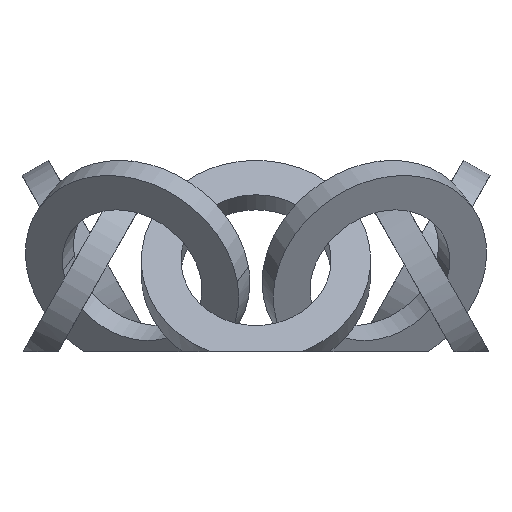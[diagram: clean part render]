
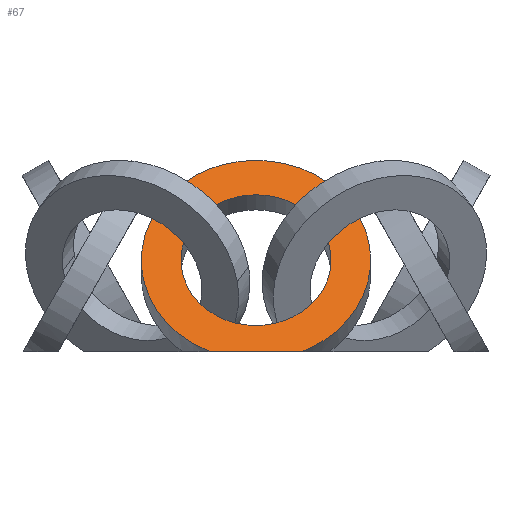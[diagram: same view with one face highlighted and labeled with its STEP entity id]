
A CAD part, left-side view. The second image highlights one B-rep face of the part: STEP entity #67.
In plain terms, the highlighted planar face has unit normal (-0.87, 0, 0.494).
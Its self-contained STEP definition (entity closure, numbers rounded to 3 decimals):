
#67=ADVANCED_FACE($,(#175,#129),#1057,.T.);
#129=FACE_BOUND($,#269,.T.);
#175=FACE_OUTER_BOUND($,#268,.T.);
#268=EDGE_LOOP($,(#469,#470,#471));
#269=EDGE_LOOP($,(#472,#473));
#469=ORIENTED_EDGE($,*,*,#759,.F.);
#470=ORIENTED_EDGE($,*,*,#767,.F.);
#471=ORIENTED_EDGE($,*,*,#765,.F.);
#472=ORIENTED_EDGE($,*,*,#770,.F.);
#473=ORIENTED_EDGE($,*,*,#761,.F.);
#759=EDGE_CURVE($,#918,#922,#1198,.T.);
#761=EDGE_CURVE($,#919,#925,#1199,.T.);
#765=EDGE_CURVE($,#922,#923,#1113,.T.);
#767=EDGE_CURVE($,#923,#918,#1201,.T.);
#770=EDGE_CURVE($,#925,#919,#1203,.T.);
#918=VERTEX_POINT($,#2023);
#919=VERTEX_POINT($,#2024);
#922=VERTEX_POINT($,#2027);
#923=VERTEX_POINT($,#2028);
#925=VERTEX_POINT($,#2030);
#1057=PLANE($,#1361);
#1113=B_SPLINE_CURVE_WITH_KNOTS($,3,(#1956,#1957,#1958,#1959),.UNSPECIFIED.,
.F.,.F.,(4,4),(-21.035,-9.032),.UNSPECIFIED.);
#1198=(
BOUNDED_CURVE()
B_SPLINE_CURVE(2,(#1924,#1925,#1926,#1927,#1928,#1929,#1930),.UNSPECIFIED.,
.F.,.F.)
B_SPLINE_CURVE_WITH_KNOTS((3,2,2,3),(0.,23.614,47.228,
65.429),.UNSPECIFIED.)
CURVE()
GEOMETRIC_REPRESENTATION_ITEM()
RATIONAL_B_SPLINE_CURVE((1.,0.707,1.,0.707,1.,0.818,
1.))
REPRESENTATION_ITEM($)
);
#1199=(
BOUNDED_CURVE()
B_SPLINE_CURVE(2,(#1933,#1934,#1935,#1936,#1937),.UNSPECIFIED.,.F.,.F.)
B_SPLINE_CURVE_WITH_KNOTS((3,2,3),(-61.882,-46.412,-30.941),
.UNSPECIFIED.)
CURVE()
GEOMETRIC_REPRESENTATION_ITEM()
RATIONAL_B_SPLINE_CURVE((1.,0.707,1.,0.707,1.))
REPRESENTATION_ITEM($)
);
#1201=(
BOUNDED_CURVE()
B_SPLINE_CURVE(2,(#1963,#1964,#1965),.UNSPECIFIED.,.F.,.F.)
B_SPLINE_CURVE_WITH_KNOTS((3,3),(78.223,94.457),.UNSPECIFIED.)
CURVE()
GEOMETRIC_REPRESENTATION_ITEM()
RATIONAL_B_SPLINE_CURVE((1.,0.854,1.))
REPRESENTATION_ITEM($)
);
#1203=(
BOUNDED_CURVE()
B_SPLINE_CURVE(2,(#1973,#1974,#1975,#1976,#1977),.UNSPECIFIED.,.F.,.F.)
B_SPLINE_CURVE_WITH_KNOTS((3,2,3),(-30.941,-15.471,0.),
.UNSPECIFIED.)
CURVE()
GEOMETRIC_REPRESENTATION_ITEM()
RATIONAL_B_SPLINE_CURVE((1.,0.707,1.,0.707,1.))
REPRESENTATION_ITEM($)
);
#1361=AXIS2_PLACEMENT_3D($,#1995,#1400,$);
#1400=DIRECTION($,(-0.87,0.,0.494));
#1924=CARTESIAN_POINT($,(-32.233,15.,11.118));
#1925=CARTESIAN_POINT($,(-24.829,16.,24.163));
#1926=CARTESIAN_POINT($,(-24.335,1.,25.032));
#1927=CARTESIAN_POINT($,(-23.842,-14.,25.902));
#1928=CARTESIAN_POINT($,(-31.246,-15.,12.857));
#1929=CARTESIAN_POINT($,(-36.458,-15.704,3.674));
#1930=CARTESIAN_POINT($,(-38.543,-6.002,0.));
#1933=CARTESIAN_POINT($,(-32.063,9.827,11.417));
#1934=CARTESIAN_POINT($,(-36.913,9.172,2.871));
#1935=CARTESIAN_POINT($,(-36.59,-0.655,3.441));
#1936=CARTESIAN_POINT($,(-36.267,-10.482,4.011));
#1937=CARTESIAN_POINT($,(-31.416,-9.827,12.557));
#1956=CARTESIAN_POINT($,(-38.543,-6.002,0.));
#1957=CARTESIAN_POINT($,(-38.543,-2.001,0.));
#1958=CARTESIAN_POINT($,(-38.543,2.001,0.));
#1959=CARTESIAN_POINT($,(-38.543,6.002,0.));
#1963=CARTESIAN_POINT($,(-38.543,6.002,0.));
#1964=CARTESIAN_POINT($,(-36.74,14.391,3.177));
#1965=CARTESIAN_POINT($,(-32.233,15.,11.118));
#1973=CARTESIAN_POINT($,(-31.416,-9.827,12.557));
#1974=CARTESIAN_POINT($,(-26.565,-9.172,21.103));
#1975=CARTESIAN_POINT($,(-26.889,0.655,20.534));
#1976=CARTESIAN_POINT($,(-27.212,10.482,19.964));
#1977=CARTESIAN_POINT($,(-32.063,9.827,11.417));
#1995=CARTESIAN_POINT($,(-38.543,-15.334,0.));
#2023=CARTESIAN_POINT($,(-32.233,15.,11.118));
#2024=CARTESIAN_POINT($,(-32.063,9.827,11.417));
#2027=CARTESIAN_POINT($,(-38.543,-6.002,0.));
#2028=CARTESIAN_POINT($,(-38.543,6.002,0.));
#2030=CARTESIAN_POINT($,(-31.416,-9.827,12.557));
